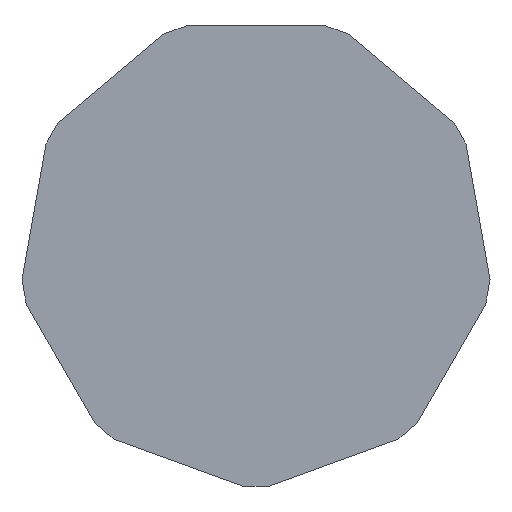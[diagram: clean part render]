
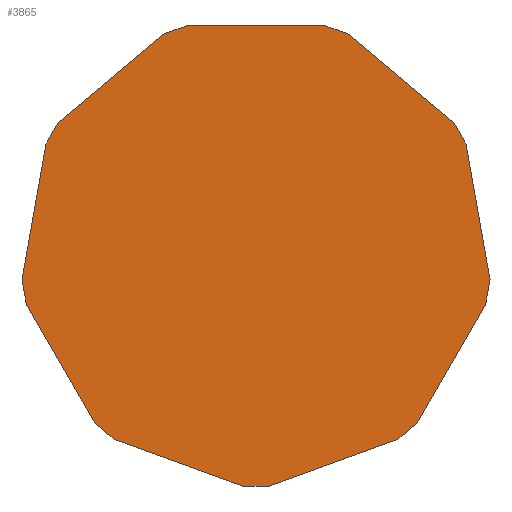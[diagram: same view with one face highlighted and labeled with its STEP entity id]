
A CAD part, front view. The second image highlights one B-rep face of the part: STEP entity #3865.
In plain terms, the highlighted planar face has unit normal (0, -1, 0).
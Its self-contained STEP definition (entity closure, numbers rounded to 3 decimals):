
#20 = CARTESIAN_POINT ( 'NONE',  ( -22.25, 0., 72.827 ) ) ;
#40 = VERTEX_POINT ( 'NONE', #4241 ) ;
#94 = VECTOR ( 'NONE', #214, 1000. ) ;
#150 = CARTESIAN_POINT ( 'NONE',  ( -4., 0., -76.045 ) ) ;
#166 = VECTOR ( 'NONE', #4559, 1000. ) ;
#214 = DIRECTION ( 'NONE',  ( -0.5, 0., 0.866 ) ) ;
#282 = VERTEX_POINT ( 'NONE', #3666 ) ;
#298 = LINE ( 'NONE', #1949, #2245 ) ;
#300 = ORIENTED_EDGE ( 'NONE', *, *, #2174, .F. ) ;
#498 = PLANE ( 'NONE',  #4507 ) ;
#502 = DIRECTION ( 'NONE',  ( 1., 0., 0. ) ) ;
#511 = LINE ( 'NONE', #4013, #2085 ) ;
#530 = ORIENTED_EDGE ( 'NONE', *, *, #2630, .F. ) ;
#606 = DIRECTION ( 'NONE',  ( -0.94, 0., 0.342 ) ) ;
#619 = DIRECTION ( 'NONE',  ( -0.5, 0., -0.866 ) ) ;
#642 = LINE ( 'NONE', #2374, #4083 ) ;
#665 = EDGE_CURVE ( 'NONE', #1060, #1175, #2835, .T. ) ;
#672 = CARTESIAN_POINT ( 'NONE',  ( 22.25, 0., 72.827 ) ) ;
#689 = VERTEX_POINT ( 'NONE', #3660 ) ;
#783 = DIRECTION ( 'NONE',  ( 0.174, 0., 0.985 ) ) ;
#813 = DIRECTION ( 'NONE',  ( 0.766, 0., 0.643 ) ) ;
#1019 = EDGE_CURVE ( 'NONE', #4617, #40, #4552, .T. ) ;
#1032 = VECTOR ( 'NONE', #3944, 1000. ) ;
#1060 = VERTEX_POINT ( 'NONE', #3216 ) ;
#1063 = ORIENTED_EDGE ( 'NONE', *, *, #2851, .F. ) ;
#1143 = CARTESIAN_POINT ( 'NONE',  ( 4., 0., -76.045 ) ) ;
#1175 = VERTEX_POINT ( 'NONE', #3902 ) ;
#1317 = CARTESIAN_POINT ( 'NONE',  ( 67.857, 0., 34.558 ) ) ;
#1361 = VERTEX_POINT ( 'NONE', #4404 ) ;
#1413 = LINE ( 'NONE', #2268, #3336 ) ;
#1457 = CARTESIAN_POINT ( 'NONE',  ( 51.945, 0., -55.682 ) ) ;
#1588 = LINE ( 'NONE', #3317, #2512 ) ;
#1611 = DIRECTION ( 'NONE',  ( -0.94, 0., -0.342 ) ) ;
#1649 = LINE ( 'NONE', #5497, #4462 ) ;
#1682 = EDGE_CURVE ( 'NONE', #2250, #4731, #1413, .T. ) ;
#1686 = VECTOR ( 'NONE', #619, 1000. ) ;
#1691 = VECTOR ( 'NONE', #5439, 1000. ) ;
#1697 = EDGE_CURVE ( 'NONE', #4467, #2877, #3518, .T. ) ;
#1711 = VECTOR ( 'NONE', #813, 1000. ) ;
#1720 = CARTESIAN_POINT ( 'NONE',  ( -29.768, 0., 70.09 ) ) ;
#1785 = LINE ( 'NONE', #3090, #1032 ) ;
#1843 = ORIENTED_EDGE ( 'NONE', *, *, #3059, .F. ) ;
#1856 = ORIENTED_EDGE ( 'NONE', *, *, #2564, .F. ) ;
#1949 = CARTESIAN_POINT ( 'NONE',  ( 45.816, 0., -60.825 ) ) ;
#1988 = EDGE_CURVE ( 'NONE', #2458, #282, #1649, .T. ) ;
#2030 = ORIENTED_EDGE ( 'NONE', *, *, #4406, .F. ) ;
#2085 = VECTOR ( 'NONE', #4831, 1000. ) ;
#2159 = VECTOR ( 'NONE', #502, 1000. ) ;
#2171 = DIRECTION ( 'NONE',  ( 0.5, 0., -0.866 ) ) ;
#2174 = EDGE_CURVE ( 'NONE', #2377, #3323, #642, .T. ) ;
#2183 = FACE_OUTER_BOUND ( 'NONE', #3064, .T. ) ;
#2201 = VERTEX_POINT ( 'NONE', #1720 ) ;
#2227 = VECTOR ( 'NONE', #2171, 1000. ) ;
#2232 = CARTESIAN_POINT ( 'NONE',  ( -22.25, 0., 72.827 ) ) ;
#2245 = VECTOR ( 'NONE', #1611, 1000. ) ;
#2250 = VERTEX_POINT ( 'NONE', #2991 ) ;
#2268 = CARTESIAN_POINT ( 'NONE',  ( 29.768, 0., 70.09 ) ) ;
#2276 = ORIENTED_EDGE ( 'NONE', *, *, #5513, .F. ) ;
#2312 = ORIENTED_EDGE ( 'NONE', *, *, #1988, .F. ) ;
#2335 = LINE ( 'NONE', #1457, #3026 ) ;
#2344 = ORIENTED_EDGE ( 'NONE', *, *, #665, .F. ) ;
#2374 = CARTESIAN_POINT ( 'NONE',  ( -74.195, 0., -17.144 ) ) ;
#2377 = VERTEX_POINT ( 'NONE', #4860 ) ;
#2378 = LINE ( 'NONE', #4990, #166 ) ;
#2446 = EDGE_CURVE ( 'NONE', #689, #1361, #511, .T. ) ;
#2458 = VERTEX_POINT ( 'NONE', #1317 ) ;
#2482 = VECTOR ( 'NONE', #4525, 1000. ) ;
#2512 = VECTOR ( 'NONE', #3775, 1000. ) ;
#2517 = DIRECTION ( 'NONE',  ( 0.174, 0., -0.985 ) ) ;
#2564 = EDGE_CURVE ( 'NONE', #1175, #5106, #2335, .T. ) ;
#2580 = CARTESIAN_POINT ( 'NONE',  ( 45.816, 0., -60.825 ) ) ;
#2588 = LINE ( 'NONE', #4325, #2227 ) ;
#2630 = EDGE_CURVE ( 'NONE', #2877, #2250, #1785, .T. ) ;
#2637 = DIRECTION ( 'NONE',  ( 0.766, 0., -0.643 ) ) ;
#2796 = VECTOR ( 'NONE', #606, 1000. ) ;
#2835 = LINE ( 'NONE', #4562, #1686 ) ;
#2851 = EDGE_CURVE ( 'NONE', #282, #1060, #2378, .T. ) ;
#2877 = VERTEX_POINT ( 'NONE', #672 ) ;
#2918 = EDGE_CURVE ( 'NONE', #1361, #2377, #5045, .T. ) ;
#2991 = CARTESIAN_POINT ( 'NONE',  ( 29.768, 0., 70.09 ) ) ;
#3026 = VECTOR ( 'NONE', #4918, 1000. ) ;
#3059 = EDGE_CURVE ( 'NONE', #3323, #4413, #4330, .T. ) ;
#3062 = DIRECTION ( 'NONE',  ( 0., 0., 1. ) ) ;
#3064 = EDGE_LOOP ( 'NONE', ( #3185, #3291, #2276, #4799, #1843, #300, #5275, #4870, #2030, #4162, #4911, #1856, #2344, #1063, #2312, #5301, #4446, #530 ) ) ;
#3090 = CARTESIAN_POINT ( 'NONE',  ( 22.25, 0., 72.827 ) ) ;
#3185 = ORIENTED_EDGE ( 'NONE', *, *, #1697, .F. ) ;
#3216 = CARTESIAN_POINT ( 'NONE',  ( 74.195, 0., -17.144 ) ) ;
#3273 = VECTOR ( 'NONE', #783, 1000. ) ;
#3291 = ORIENTED_EDGE ( 'NONE', *, *, #5442, .F. ) ;
#3317 = CARTESIAN_POINT ( 'NONE',  ( -67.857, 0., 34.558 ) ) ;
#3323 = VERTEX_POINT ( 'NONE', #3381 ) ;
#3336 = VECTOR ( 'NONE', #2637, 1000. ) ;
#3341 = LINE ( 'NONE', #4194, #1691 ) ;
#3381 = CARTESIAN_POINT ( 'NONE',  ( -75.584, 0., -9.266 ) ) ;
#3518 = LINE ( 'NONE', #20, #2159 ) ;
#3660 = CARTESIAN_POINT ( 'NONE',  ( -45.816, 0., -60.825 ) ) ;
#3666 = CARTESIAN_POINT ( 'NONE',  ( 75.584, 0., -9.266 ) ) ;
#3775 = DIRECTION ( 'NONE',  ( 0.5, 0., 0.866 ) ) ;
#3779 = EDGE_CURVE ( 'NONE', #4413, #5339, #1588, .T. ) ;
#3865 = ADVANCED_FACE ( 'NONE', ( #2183 ), #498, .F. ) ;
#3902 = CARTESIAN_POINT ( 'NONE',  ( 51.945, 0., -55.682 ) ) ;
#3936 = CARTESIAN_POINT ( 'NONE',  ( -75.584, 0., -9.266 ) ) ;
#3944 = DIRECTION ( 'NONE',  ( 0.94, 0., -0.342 ) ) ;
#4013 = CARTESIAN_POINT ( 'NONE',  ( -45.816, 0., -60.825 ) ) ;
#4083 = VECTOR ( 'NONE', #4133, 1000. ) ;
#4133 = DIRECTION ( 'NONE',  ( -0.174, 0., 0.985 ) ) ;
#4162 = ORIENTED_EDGE ( 'NONE', *, *, #1019, .F. ) ;
#4194 = CARTESIAN_POINT ( 'NONE',  ( -29.768, 0., 70.09 ) ) ;
#4223 = EDGE_CURVE ( 'NONE', #5106, #4617, #298, .T. ) ;
#4241 = CARTESIAN_POINT ( 'NONE',  ( -4., 0., -76.045 ) ) ;
#4256 = CARTESIAN_POINT ( 'NONE',  ( -63.857, 0., 41.486 ) ) ;
#4325 = CARTESIAN_POINT ( 'NONE',  ( 63.857, 0., 41.486 ) ) ;
#4330 = LINE ( 'NONE', #3936, #3273 ) ;
#4336 = LINE ( 'NONE', #4386, #1711 ) ;
#4386 = CARTESIAN_POINT ( 'NONE',  ( -63.857, 0., 41.486 ) ) ;
#4404 = CARTESIAN_POINT ( 'NONE',  ( -51.945, 0., -55.682 ) ) ;
#4406 = EDGE_CURVE ( 'NONE', #40, #689, #4437, .T. ) ;
#4413 = VERTEX_POINT ( 'NONE', #4868 ) ;
#4437 = LINE ( 'NONE', #150, #2796 ) ;
#4446 = ORIENTED_EDGE ( 'NONE', *, *, #1682, .F. ) ;
#4462 = VECTOR ( 'NONE', #2517, 1000. ) ;
#4467 = VERTEX_POINT ( 'NONE', #2232 ) ;
#4507 = AXIS2_PLACEMENT_3D ( 'NONE', #5220, #4820, #3062 ) ;
#4525 = DIRECTION ( 'NONE',  ( -1., 0., 0. ) ) ;
#4534 = CARTESIAN_POINT ( 'NONE',  ( -51.945, 0., -55.682 ) ) ;
#4552 = LINE ( 'NONE', #1143, #2482 ) ;
#4559 = DIRECTION ( 'NONE',  ( -0.174, 0., -0.985 ) ) ;
#4562 = CARTESIAN_POINT ( 'NONE',  ( 74.195, 0., -17.144 ) ) ;
#4617 = VERTEX_POINT ( 'NONE', #5069 ) ;
#4731 = VERTEX_POINT ( 'NONE', #5122 ) ;
#4790 = EDGE_CURVE ( 'NONE', #4731, #2458, #2588, .T. ) ;
#4799 = ORIENTED_EDGE ( 'NONE', *, *, #3779, .F. ) ;
#4820 = DIRECTION ( 'NONE',  ( 0., 1., 0. ) ) ;
#4831 = DIRECTION ( 'NONE',  ( -0.766, 0., 0.643 ) ) ;
#4860 = CARTESIAN_POINT ( 'NONE',  ( -74.195, 0., -17.144 ) ) ;
#4868 = CARTESIAN_POINT ( 'NONE',  ( -67.857, 0., 34.558 ) ) ;
#4870 = ORIENTED_EDGE ( 'NONE', *, *, #2446, .F. ) ;
#4911 = ORIENTED_EDGE ( 'NONE', *, *, #4223, .F. ) ;
#4918 = DIRECTION ( 'NONE',  ( -0.766, 0., -0.643 ) ) ;
#4990 = CARTESIAN_POINT ( 'NONE',  ( 75.584, 0., -9.266 ) ) ;
#5045 = LINE ( 'NONE', #4534, #94 ) ;
#5069 = CARTESIAN_POINT ( 'NONE',  ( 4., 0., -76.045 ) ) ;
#5106 = VERTEX_POINT ( 'NONE', #2580 ) ;
#5122 = CARTESIAN_POINT ( 'NONE',  ( 63.857, 0., 41.486 ) ) ;
#5220 = CARTESIAN_POINT ( 'NONE',  ( 0., 0., 0. ) ) ;
#5275 = ORIENTED_EDGE ( 'NONE', *, *, #2918, .F. ) ;
#5301 = ORIENTED_EDGE ( 'NONE', *, *, #4790, .F. ) ;
#5339 = VERTEX_POINT ( 'NONE', #4256 ) ;
#5439 = DIRECTION ( 'NONE',  ( 0.94, 0., 0.342 ) ) ;
#5442 = EDGE_CURVE ( 'NONE', #2201, #4467, #3341, .T. ) ;
#5497 = CARTESIAN_POINT ( 'NONE',  ( 67.857, 0., 34.558 ) ) ;
#5513 = EDGE_CURVE ( 'NONE', #5339, #2201, #4336, .T. ) ;
